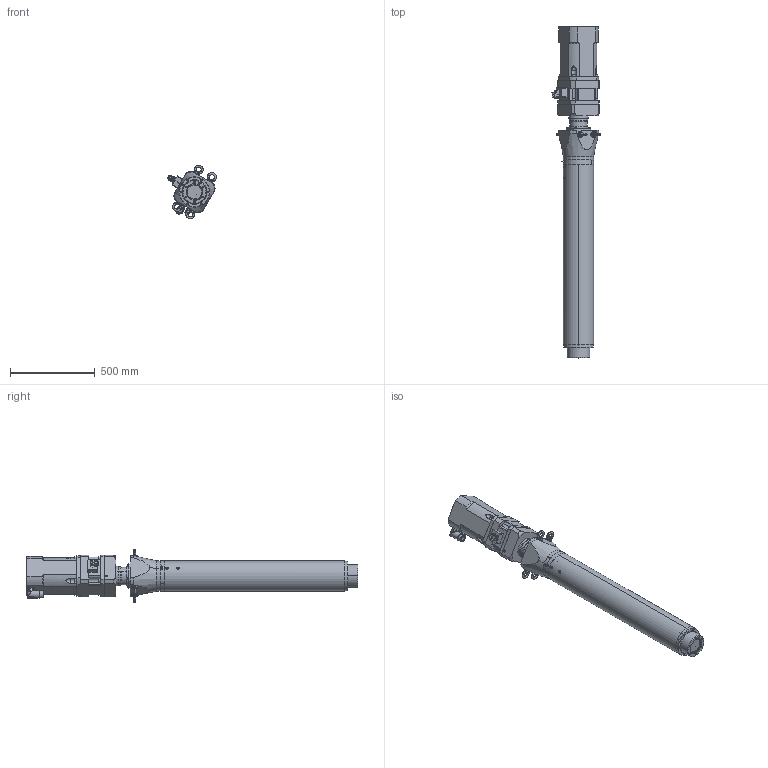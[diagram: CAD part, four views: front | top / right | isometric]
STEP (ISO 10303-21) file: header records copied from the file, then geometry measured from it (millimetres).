
FILE_DESCRIPTION (( 'STEP AP214' ), '1' );
FILE_NAME ('RLWIK060D-075-025SG0.STEP', '2023-04-06T05:27:48', ( '' ), ( '' ), 'SwSTEP 2.0', 'SolidWorks 2021', '' );
FILE_SCHEMA (( 'AUTOMOTIVE_DESIGN' ));
Length unit declared in the file: millimetre
Products named in the file (1): RLWIK060D-075-025SG0
Bounding box: 286.71 x 1953.5 x 317.1 mm (x, y, z)
Volume: 41724730.3 mm3; surface area: 3109536.4 mm2
Topology: 39 solids, 39 shells, 1506 faces, 3559 edges, 2122 vertices
Faces by surface type: cylinder 566, plane 506, cone 246, torus 112, bspline 74, sphere 2
Entity records: 65124 total; most frequent: CARTESIAN_POINT 13689, DIRECTION 7595, ORIENTED_EDGE 6798, EDGE_CURVE 3399, AXIS2_PLACEMENT_3D 3015, VERTEX_POINT 2122, EDGE_LOOP 1755, CIRCLE 1582
